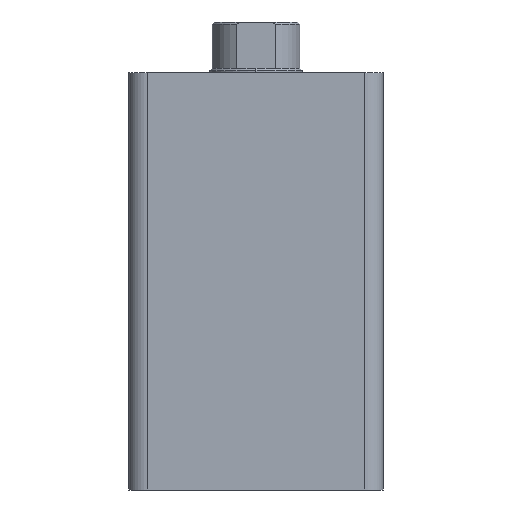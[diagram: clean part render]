
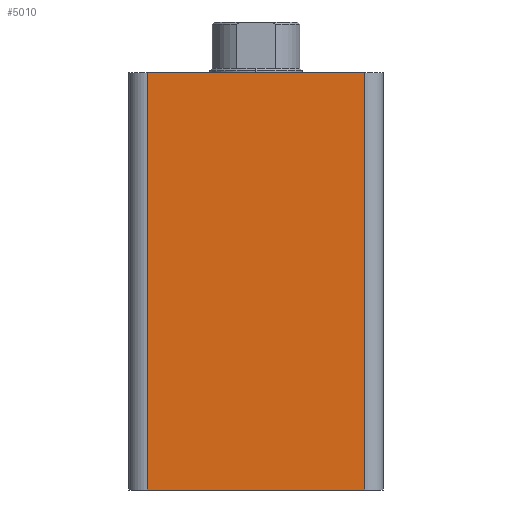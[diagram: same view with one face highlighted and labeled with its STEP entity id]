
A CAD part, front view. The second image highlights one B-rep face of the part: STEP entity #5010.
In plain terms, the highlighted planar face has unit normal (0, -1, 0).
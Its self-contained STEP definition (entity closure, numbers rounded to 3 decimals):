
#178 = VERTEX_POINT ( 'NONE', #12873 ) ;
#354 = DIRECTION ( 'NONE',  ( 0., 0., 1. ) ) ;
#601 = ORIENTED_EDGE ( 'NONE', *, *, #7937, .T. ) ;
#660 = AXIS2_PLACEMENT_3D ( 'NONE', #13596, #8489, #7344 ) ;
#1123 = CARTESIAN_POINT ( 'NONE',  ( 4., 0., 90. ) ) ;
#1335 = LINE ( 'NONE', #12513, #3460 ) ;
#1377 = CARTESIAN_POINT ( 'NONE',  ( 51., 0., 0. ) ) ;
#1529 = EDGE_CURVE ( 'NONE', #13482, #13402, #1335, .T. ) ;
#1589 = ORIENTED_EDGE ( 'NONE', *, *, #1529, .F. ) ;
#1957 = LINE ( 'NONE', #11433, #9509 ) ;
#2537 = EDGE_CURVE ( 'NONE', #178, #12713, #8052, .T. ) ;
#3178 = EDGE_LOOP ( 'NONE', ( #8916, #601, #1589, #11954 ) ) ;
#3460 = VECTOR ( 'NONE', #5207, 1000. ) ;
#3501 = LINE ( 'NONE', #4494, #9594 ) ;
#3794 = DIRECTION ( 'NONE',  ( 1., 0., 0. ) ) ;
#4494 = CARTESIAN_POINT ( 'NONE',  ( 51., 0., 90. ) ) ;
#5010 = ADVANCED_FACE ( 'NONE', ( #9806 ), #6284, .F. ) ;
#5207 = DIRECTION ( 'NONE',  ( 1., 0., 0. ) ) ;
#5435 = VECTOR ( 'NONE', #3794, 1000. ) ;
#6284 = PLANE ( 'NONE',  #660 ) ;
#7075 = CARTESIAN_POINT ( 'NONE',  ( 0., 0., 0. ) ) ;
#7236 = DIRECTION ( 'NONE',  ( 0., 0., -1. ) ) ;
#7336 = CARTESIAN_POINT ( 'NONE',  ( 51., 0., 90. ) ) ;
#7344 = DIRECTION ( 'NONE',  ( 0., 0., 1. ) ) ;
#7937 = EDGE_CURVE ( 'NONE', #12713, #13402, #3501, .T. ) ;
#8052 = LINE ( 'NONE', #7075, #5435 ) ;
#8489 = DIRECTION ( 'NONE',  ( 0., 1., 0. ) ) ;
#8916 = ORIENTED_EDGE ( 'NONE', *, *, #2537, .T. ) ;
#9509 = VECTOR ( 'NONE', #7236, 1000. ) ;
#9594 = VECTOR ( 'NONE', #354, 1000. ) ;
#9806 = FACE_OUTER_BOUND ( 'NONE', #3178, .T. ) ;
#9963 = EDGE_CURVE ( 'NONE', #13482, #178, #1957, .T. ) ;
#11433 = CARTESIAN_POINT ( 'NONE',  ( 4., 0., 90. ) ) ;
#11954 = ORIENTED_EDGE ( 'NONE', *, *, #9963, .T. ) ;
#12513 = CARTESIAN_POINT ( 'NONE',  ( 0., 0., 90. ) ) ;
#12713 = VERTEX_POINT ( 'NONE', #1377 ) ;
#12873 = CARTESIAN_POINT ( 'NONE',  ( 4., 0., 0. ) ) ;
#13402 = VERTEX_POINT ( 'NONE', #7336 ) ;
#13482 = VERTEX_POINT ( 'NONE', #1123 ) ;
#13596 = CARTESIAN_POINT ( 'NONE',  ( 0., 0., 90. ) ) ;
